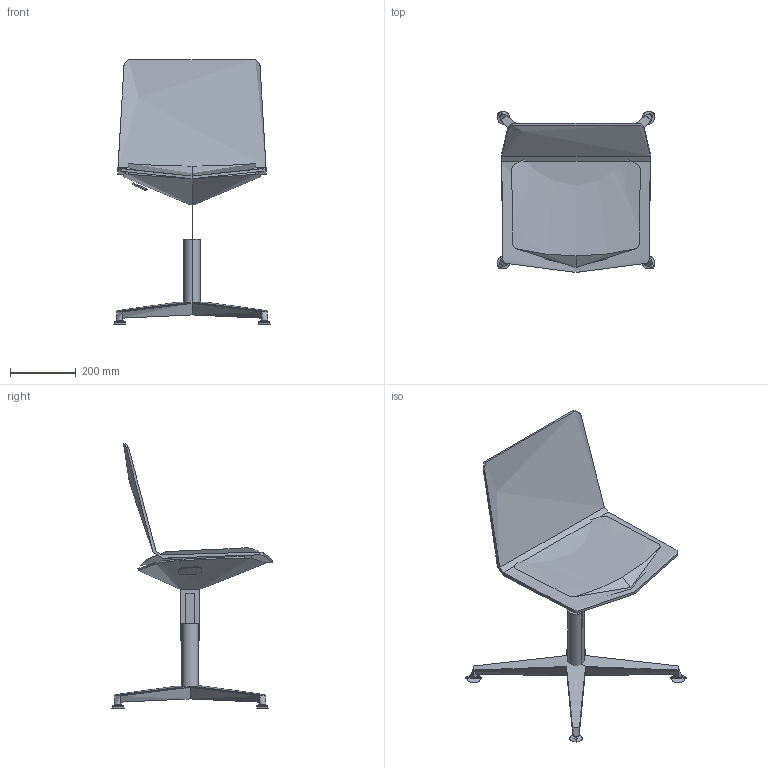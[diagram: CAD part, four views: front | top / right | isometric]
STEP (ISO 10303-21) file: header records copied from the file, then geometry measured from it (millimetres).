
FILE_DESCRIPTION(/* description */ (''),/* implementation_level */ '2;1');
FILE_NAME(/* name */ 'SK677C~1',/* time_stamp */ '2016-02-19T13:03:41+01:00',/* author */ (''),/* organization */ (''),/* preprocessor_version */ 'ST-DEVELOPER v15',/* originating_system */ '',/* authorisation */ '');
FILE_SCHEMA (('CONFIG_CONTROL_DESIGN'));
Length unit declared in the file: millimetre
Products named in the file (1): Document
Bounding box: 476.4 x 488.2 x 803.23 mm (x, y, z)
Volume: 3468008.8 mm3; surface area: 1276924.5 mm2
Topology: 2 solids, 20 shells, 139 faces, 336 edges, 202 vertices
Faces by surface type: bspline 115, plane 24
Entity records: 11937 total; most frequent: CARTESIAN_POINT 9936, ORIENTED_EDGE 568, EDGE_CURVE 325, B_SPLINE_CURVE_WITH_KNOTS 212, VERTEX_POINT 202, ADVANCED_FACE 139, FACE_OUTER_BOUND 139, EDGE_LOOP 139
